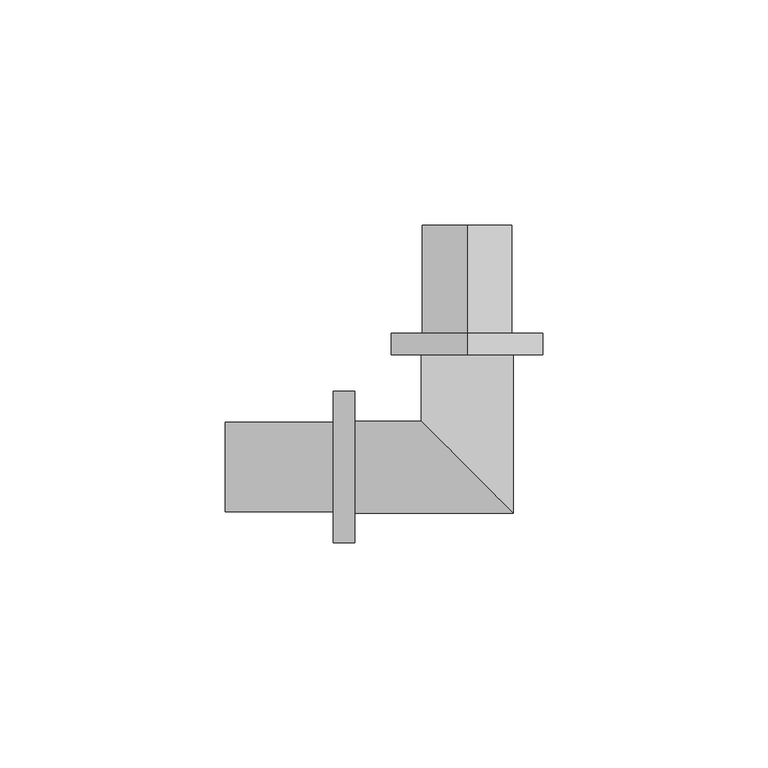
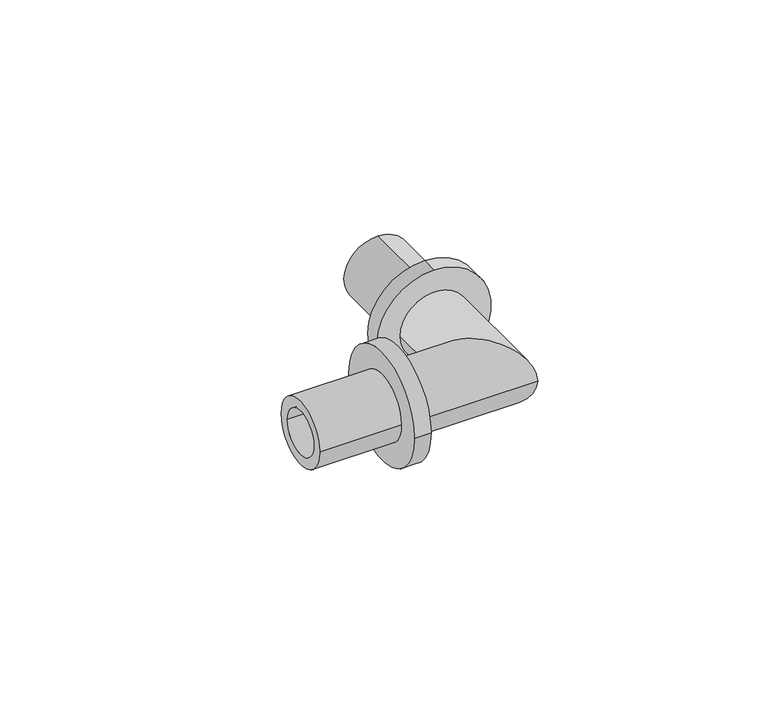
"""IFC4 building model written with IfcOpenShell, lengths in millimetres: pipe fitting geometry, RAUTITAN_Corner_PX : RTI PX C DE."""

from ifc_helpers import new_model, si_unit, frame, origin, place, context, project, spatial, polyline, circle_curve, ellipse_curve, source, transform, mapped, element, save
from ifc_brep_helpers import plane_surface, cylinder_surface, revolved_surface, advanced_brep


def pipe_fitting_3b3abbc6(model_context):
    return source(origin(), model_context, "Body", "AdvancedBrep", [
        advanced_brep(
        [(0.0, 29.8, 16.85), (0.0, 29.8, -16.85), (0.0, 25.0, -16.85), (0.0, 25.0, 16.85), (0.0, 53.8, 9.95), (0.0, 53.8, -9.95), (0.0, 29.8, -9.95), (0.0, 29.8, 9.95), (0.0, 25.0, 6.75), (0.0, 25.0, -6.75), (0.0, 53.8, -6.75), (0.0, 53.8, 6.75)],
        [
            (0, 1, circle_curve(frame((0.0, 29.8, 0.0), z_axis=(0.0, -1.0, 0.0), x_axis=(0.0, 0.0, -1.0)), 16.85)),
            (1, 2),
            (2, 3, circle_curve(frame((0.0, 25.0, 0.0), z_axis=(0.0, 1.0, 0.0), x_axis=(0.0, 0.0, -1.0)), 16.85)),
            (3, 0),
            (4, 5, circle_curve(frame((0.0, 53.8, 0.0), z_axis=(0.0, -1.0, 0.0), x_axis=(0.0, 0.0, -1.0)), 9.95)),
            (5, 6),
            (6, 7, circle_curve(frame((0.0, 29.8, 0.0), z_axis=(0.0, 1.0, 0.0), x_axis=(0.0, 0.0, -1.0)), 9.95)),
            (7, 4),
            (8, 9, circle_curve(frame((0.0, 25.0, 0.0), z_axis=(0.0, -1.0, 0.0), x_axis=(0.0, 0.0, -1.0)), 6.75)),
            (9, 10),
            (10, 11, circle_curve(frame((0.0, 53.8, 0.0), z_axis=(0.0, 1.0, 0.0), x_axis=(0.0, 0.0, -1.0)), 6.75)),
            (11, 8),
            (1, 0, circle_curve(frame((0.0, 29.8, 0.0), z_axis=(0.0, -1.0, 0.0), x_axis=(0.0, 0.0, 1.0)), 16.85)),
            (3, 2, circle_curve(frame((0.0, 25.0, 0.0), z_axis=(0.0, 1.0, 0.0), x_axis=(0.0, 0.0, 1.0)), 16.85)),
            (6, 7, circle_curve(frame((0.0, 29.8, 0.0), z_axis=(0.0, -1.0, 0.0), x_axis=(0.0, 0.0, 1.0)), 9.95)),
            (5, 4, circle_curve(frame((0.0, 53.8, 0.0), z_axis=(0.0, -1.0, 0.0), x_axis=(0.0, 0.0, 1.0)), 9.95)),
            (10, 11, circle_curve(frame((0.0, 53.8, 0.0), z_axis=(0.0, -1.0, 0.0), x_axis=(0.0, 0.0, 1.0)), 6.75)),
            (9, 8, circle_curve(frame((0.0, 25.0, 0.0), z_axis=(0.0, -1.0, 0.0), x_axis=(0.0, 0.0, 1.0)), 6.75)),
        ],
        [
            cylinder_surface(frame((0.0, 25.0, 0.0), z_axis=(0.0, 1.0, 0.0), x_axis=(0.0, 0.0, -1.0)), 16.85),
            cylinder_surface(frame((0.0, 25.0, 0.0), z_axis=(0.0, 1.0, 0.0), x_axis=(0.0, 0.0, -1.0)), 9.95),
            revolved_surface(polyline([(0.0, 53.8, -6.75), (0.0, 25.0, -6.75)]), (0.0, 25.0, 0.0), (0.0, 1.0, 0.0)),
            cylinder_surface(frame((0.0, 25.0, 0.0), z_axis=(0.0, 1.0, 0.0), x_axis=(0.0, 0.0, 1.0)), 16.85),
            plane_surface(frame((0.0, 29.8, 0.0), z_axis=(0.0, 1.0, 0.0), x_axis=(0.0, 0.0, 1.0))),
            cylinder_surface(frame((0.0, 25.0, 0.0), z_axis=(0.0, 1.0, 0.0), x_axis=(0.0, 0.0, 1.0)), 9.95),
            plane_surface(frame((0.0, 53.8, 0.0), z_axis=(0.0, 1.0, 0.0), x_axis=(0.0, 0.0, 1.0))),
            revolved_surface(polyline([(0.0, 53.8, 6.75), (0.0, 25.0, 6.75)]), (0.0, 25.0, 0.0), (0.0, 1.0, 0.0)),
            plane_surface(frame((0.0, 25.0, 0.0), z_axis=(0.0, -1.0, 0.0), x_axis=(0.0, 0.0, 1.0))),
        ],
        [
            (0, [[1, 2, 3, 4]]),
            (1, [[5, 6, 7, 8]]),
            (2, [[9, 10, 11, 12]]),
            (3, [[13, -4, 14, -2]]),
            (4, [[-13, -1], [15, -7]]),
            (5, [[16, -8, -15, -6]]),
            (6, [[-16, -5], [17, -11]]),
            (7, [[18, -12, -17, -10]]),
            (8, [[-14, -3], [-18, -9]]),
        ],
    ),
        advanced_brep(
        [(-29.8, -16.85, 0.0), (-29.8, 16.85, 0.0), (-25.0, 16.85, 0.0), (-25.0, -16.85, 0.0), (-53.8, -9.95, 0.0), (-53.8, 9.95, 0.0), (-29.8, 9.95, 0.0), (-29.8, -9.95, 0.0), (-25.0, -6.75, 0.0), (-25.0, 6.75, 0.0), (-53.8, 6.75, 0.0), (-53.8, -6.75, 0.0)],
        [
            (0, 1, circle_curve(frame((-29.8, 0.0, 0.0), z_axis=(1.0, 0.0, 0.0), x_axis=(0.0, 1.0, 0.0)), 16.85)),
            (1, 2),
            (2, 3, circle_curve(frame((-25.0, 0.0, 0.0), z_axis=(-1.0, 0.0, 0.0), x_axis=(0.0, 1.0, 0.0)), 16.85)),
            (3, 0),
            (4, 5, circle_curve(frame((-53.8, 0.0, 0.0), z_axis=(1.0, 0.0, 0.0), x_axis=(0.0, 1.0, 0.0)), 9.95)),
            (5, 6),
            (6, 7, circle_curve(frame((-29.8, 0.0, 0.0), z_axis=(-1.0, 0.0, 0.0), x_axis=(0.0, 1.0, 0.0)), 9.95)),
            (7, 4),
            (8, 9, circle_curve(frame((-25.0, 0.0, 0.0), z_axis=(1.0, 0.0, 0.0), x_axis=(0.0, 1.0, 0.0)), 6.75)),
            (9, 10),
            (10, 11, circle_curve(frame((-53.8, 0.0, 0.0), z_axis=(-1.0, 0.0, 0.0), x_axis=(0.0, 1.0, 0.0)), 6.75)),
            (11, 8),
            (1, 0, circle_curve(frame((-29.8, 0.0, 0.0), z_axis=(1.0, 0.0, 0.0), x_axis=(0.0, -1.0, 0.0)), 16.85)),
            (3, 2, circle_curve(frame((-25.0, 0.0, 0.0), z_axis=(-1.0, 0.0, 0.0), x_axis=(0.0, -1.0, 0.0)), 16.85)),
            (6, 7, circle_curve(frame((-29.8, 0.0, 0.0), z_axis=(1.0, 0.0, 0.0), x_axis=(0.0, -1.0, 0.0)), 9.95)),
            (5, 4, circle_curve(frame((-53.8, 0.0, 0.0), z_axis=(1.0, 0.0, 0.0), x_axis=(0.0, -1.0, 0.0)), 9.95)),
            (10, 11, circle_curve(frame((-53.8, 0.0, 0.0), z_axis=(1.0, 0.0, 0.0), x_axis=(0.0, -1.0, 0.0)), 6.75)),
            (9, 8, circle_curve(frame((-25.0, 0.0, 0.0), z_axis=(1.0, 0.0, 0.0), x_axis=(0.0, -1.0, 0.0)), 6.75)),
        ],
        [
            cylinder_surface(frame((-25.0, 0.0, 0.0), z_axis=(-1.0, 0.0, 0.0), x_axis=(0.0, 1.0, 0.0)), 16.85),
            cylinder_surface(frame((-25.0, 0.0, 0.0), z_axis=(-1.0, 0.0, 0.0), x_axis=(0.0, 1.0, 0.0)), 9.95),
            revolved_surface(polyline([(-53.8, 6.75, 0.0), (-25.0, 6.75, 0.0)]), (-25.0, 0.0, 0.0), (-1.0, 0.0, 0.0)),
            cylinder_surface(frame((-25.0, 0.0, 0.0), z_axis=(-1.0, 0.0, 0.0), x_axis=(0.0, -1.0, 0.0)), 16.85),
            plane_surface(frame((-29.8, 0.0, 0.0), z_axis=(-1.0, 0.0, 0.0), x_axis=(0.0, -1.0, 0.0))),
            cylinder_surface(frame((-25.0, 0.0, 0.0), z_axis=(-1.0, 0.0, 0.0), x_axis=(0.0, -1.0, 0.0)), 9.95),
            plane_surface(frame((-53.8, 0.0, 0.0), z_axis=(-1.0, 0.0, 0.0), x_axis=(0.0, -1.0, 0.0))),
            revolved_surface(polyline([(-53.8, -6.75, 0.0), (-25.0, -6.75, 0.0)]), (-25.0, 0.0, 0.0), (-1.0, 0.0, 0.0)),
            plane_surface(frame((-25.0, 0.0, 0.0), z_axis=(1.0, 0.0, 0.0), x_axis=(0.0, -1.0, 0.0))),
        ],
        [
            (0, [[1, 2, 3, 4]]),
            (1, [[5, 6, 7, 8]]),
            (2, [[9, 10, 11, 12]]),
            (3, [[13, -4, 14, -2]]),
            (4, [[-13, -1], [15, -7]]),
            (5, [[16, -8, -15, -6]]),
            (6, [[-16, -5], [17, -11]]),
            (7, [[18, -12, -17, -10]]),
            (8, [[-14, -3], [-18, -9]]),
        ],
    ),
        advanced_brep(
        [(-25.0, -10.25, 0.0), (-25.0, 10.25, 0.0), (-25.0, -6.75, 0.0), (-25.0, 6.75, 0.0), (-6.75, 6.75, 0.0), (6.75, -6.75, 0.0), (10.25, 25.0, 0.0), (-10.25, 25.0, 0.0), (6.75, 25.0, 0.0), (-6.75, 25.0, 0.0), (10.25, -10.25, 0.0), (-10.25, 10.25, 0.0)],
        [
            (0, 1, circle_curve(frame((-25.0, 0.0, 0.0), z_axis=(-1.0, 0.0, 0.0), x_axis=(0.0, 1.0, 0.0)), 10.25)),
            (1, 0, circle_curve(frame((-25.0, 0.0, 0.0), z_axis=(-1.0, 0.0, 0.0), x_axis=(0.0, 1.0, 0.0)), 10.25)),
            (2, 3, circle_curve(frame((-25.0, 0.0, 0.0), z_axis=(1.0, 0.0, 0.0), x_axis=(0.0, 1.0, 0.0)), 6.75)),
            (3, 2, circle_curve(frame((-25.0, 0.0, 0.0), z_axis=(1.0, 0.0, 0.0), x_axis=(0.0, 1.0, 0.0)), 6.75)),
            (3, 4),
            (4, 5, ellipse_curve(frame((0.0, 0.0, 0.0), z_axis=(0.707106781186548, 0.7071067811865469, 0.0), x_axis=(0.7071067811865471, -0.7071067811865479, 0.0)), 9.5459415, 6.75)),
            (5, 2),
            (5, 4, ellipse_curve(frame((0.0, 0.0, 0.0), z_axis=(0.707106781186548, 0.7071067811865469, 0.0), x_axis=(0.7071067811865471, -0.7071067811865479, 0.0)), 9.5459415, 6.75)),
            (6, 7, circle_curve(frame((0.0, 25.0, 0.0), z_axis=(0.0, 1.0, 0.0), x_axis=(-1.0, 0.0, 0.0)), 10.25)),
            (7, 6, circle_curve(frame((0.0, 25.0, 0.0), z_axis=(0.0, 1.0, 0.0), x_axis=(-1.0, 0.0, 0.0)), 10.25)),
            (8, 9, circle_curve(frame((0.0, 25.0, 0.0), z_axis=(0.0, -1.0, 0.0), x_axis=(-1.0, 0.0, 0.0)), 6.75)),
            (9, 8, circle_curve(frame((0.0, 25.0, 0.0), z_axis=(0.0, -1.0, 0.0), x_axis=(-1.0, 0.0, 0.0)), 6.75)),
            (4, 9),
            (8, 5),
            (0, 10),
            (10, 11, ellipse_curve(frame((0.0, 0.0, 0.0), z_axis=(-0.707106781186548, -0.7071067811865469, 0.0), x_axis=(-0.7071067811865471, 0.7071067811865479, 0.0)), 14.495689, 10.25)),
            (11, 1),
            (11, 10, ellipse_curve(frame((0.0, 0.0, 0.0), z_axis=(-0.707106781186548, -0.7071067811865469, 0.0), x_axis=(-0.7071067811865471, 0.7071067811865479, 0.0)), 14.495689, 10.25)),
            (10, 6),
            (7, 11),
        ],
        [
            plane_surface(frame((-25.0, 0.0, 0.0), z_axis=(-1.0, 0.0, 0.0), x_axis=(0.0, 0.0, 1.0))),
            revolved_surface(polyline([(6.75, 6.75, 0.0), (-25.0, 6.75, 0.0)]), (-25.0, 0.0, 0.0), (1.0, 0.0, 0.0)),
            plane_surface(frame((0.0, 25.0, 0.0), z_axis=(0.0, 1.0, 0.0), x_axis=(0.0, 0.0, 1.0))),
            revolved_surface(polyline([(-6.75, 25.0, 0.0), (-6.75, -6.75, 0.0)]), (0.0, 0.0, 0.0), (0.0, 1.0, 0.0)),
            cylinder_surface(frame((-25.0, 0.0, 0.0), z_axis=(-1.0, 0.0, 0.0), x_axis=(0.0, 1.0, 0.0)), 10.25),
            cylinder_surface(frame((0.0, 0.0, 0.0), z_axis=(0.0, -1.0, 0.0), x_axis=(-1.0, 0.0, 0.0)), 10.25),
        ],
        [
            (0, [[1, 2], [3, 4]]),
            (1, [[-4, 5, 6, 7]]),
            (1, [[-3, -7, 8, -5]]),
            (2, [[9, 10], [11, 12]]),
            (3, [[-6, 13, -11, 14]]),
            (3, [[-8, -14, -12, -13]]),
            (4, [[-1, 15, 16, 17]]),
            (4, [[-2, -17, 18, -15]]),
            (5, [[-16, 19, -10, 20]]),
            (5, [[-18, -20, -9, -19]]),
        ],
    ),
    ])


if __name__ == "__main__":
    model = new_model("IFC4")
    model_context = context("Model", 3, world=origin())
    ifc_project = project(units=[si_unit("LENGTHUNIT", "METRE", prefix="MILLI")], contexts=[model_context])
    site = spatial("IfcSite", under=ifc_project)
    building = spatial("IfcBuilding", under=site)
    placement = place(None, origin())
    pipe_fitting_shape = pipe_fitting_3b3abbc6(model_context)
    element("IfcPipeFitting", 1, ObjectType="RAUTITAN_Corner_PX : RTI PX C DE", at=placement, inside=building, context=model_context, shape_type="MappedRepresentation", body=[
        mapped(pipe_fitting_shape, transform((0.0, 0.0, 0.0), x_axis=(1.0, 0.0, 0.0), y_axis=(0.0, 1.0, 0.0), z_axis=(0.0, 0.0, 1.0))),
    ])
    save(model, "model.ifc")
